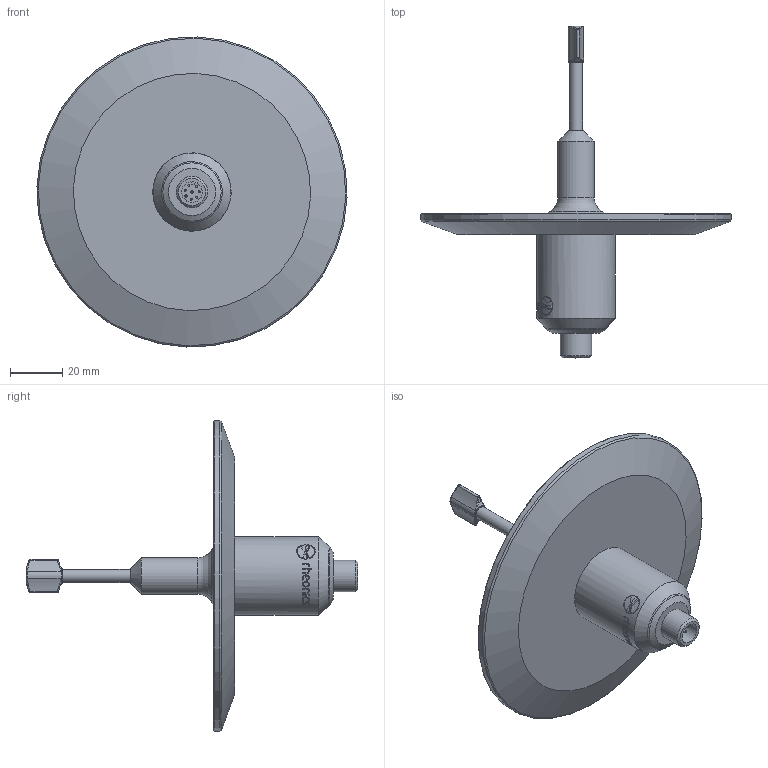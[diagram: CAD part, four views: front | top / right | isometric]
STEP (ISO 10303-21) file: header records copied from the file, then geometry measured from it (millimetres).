
FILE_DESCRIPTION(/* description */ ('Unknown'),/* implementation_level */ '2;1');
FILE_NAME(/* name */ 'SRD-HD-X3-40T',/* time_stamp */ '2024-01-05T16:12:57-05:00',/* author */ ('Unknown'),/* organization */ ('Unknown'),/* preprocessor_version */ 'ST-DEVELOPER v16.7',/* originating_system */ 'Solid Edge',/* authorisation */ 'Unknown');
FILE_SCHEMA (('AUTOMOTIVE_DESIGN {1 0 10303 214 3 1 1}'));
Length unit declared in the file: millimetre
Products named in the file (1): SRD-HD-X3-40T
Bounding box: 118.93 x 127.35 x 118.93 mm (x, y, z)
Volume: 107675.5 mm3; surface area: 30037.7 mm2
Topology: 1 solids, 1 shells, 206 faces, 517 edges, 326 vertices
Faces by surface type: bspline 93, cylinder 43, plane 36, cone 14, torus 12, sphere 8
Full cylindrical faces by diameter (mm): 0.8 x8, 5.019 x1, 8 x1, 12 x1, 13.9 x1, 30 x1, 119 x1
Entity records: 10766 total; most frequent: CARTESIAN_POINT 5327, ORIENTED_EDGE 902, DIRECTION 571, EDGE_CURVE 451, VERTEX_POINT 308, EDGE_LOOP 267, FACE_BOUND 267, AXIS2_PLACEMENT_3D 218
